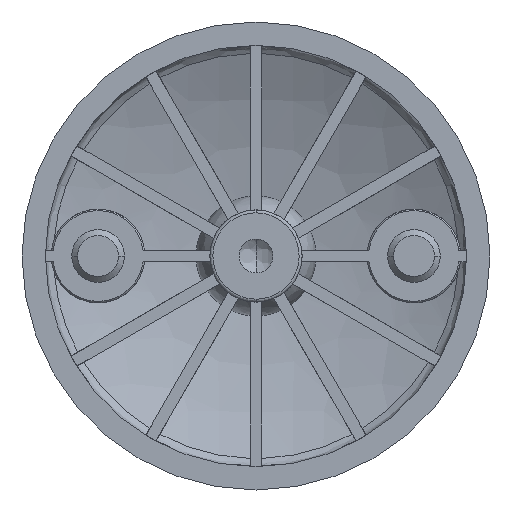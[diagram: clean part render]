
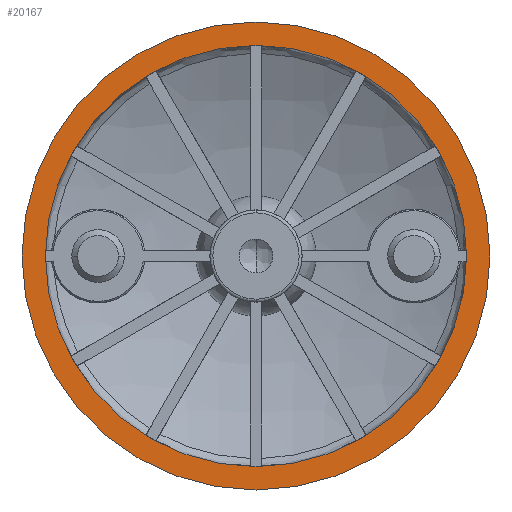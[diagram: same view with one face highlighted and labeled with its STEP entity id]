
A CAD part, front view. The second image highlights one B-rep face of the part: STEP entity #20167.
In plain terms, the highlighted planar face has unit normal (0, -1, 0).
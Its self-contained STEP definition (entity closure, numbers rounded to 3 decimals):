
#119 = CARTESIAN_POINT ( 'NONE',  ( 0., 0., -36. ) ) ;
#1140 = CARTESIAN_POINT ( 'NONE',  ( 0., 0., -36. ) ) ;
#1704 = FACE_BOUND ( 'NONE', #8779, .T. ) ;
#2088 = DIRECTION ( 'NONE',  ( 0., -1., 0. ) ) ;
#2636 = DIRECTION ( 'NONE',  ( 0., 1., 0. ) ) ;
#2767 = DIRECTION ( 'NONE',  ( 0., 0., -1. ) ) ;
#3023 = DIRECTION ( 'NONE',  ( 0., 1., 0. ) ) ;
#3615 = CIRCLE ( 'NONE', #28178, 40. ) ;
#4667 = EDGE_CURVE ( 'NONE', #25021, #13341, #3615, .T. ) ;
#6007 = AXIS2_PLACEMENT_3D ( 'NONE', #23245, #3023, #18718 ) ;
#6972 = FACE_OUTER_BOUND ( 'NONE', #22099, .T. ) ;
#7261 = DIRECTION ( 'NONE',  ( 0., 0., -1. ) ) ;
#7695 = DIRECTION ( 'NONE',  ( 0., 1., 0. ) ) ;
#8054 = CIRCLE ( 'NONE', #21966, 36. ) ;
#8779 = EDGE_LOOP ( 'NONE', ( #14365, #28837 ) ) ;
#10270 = CARTESIAN_POINT ( 'NONE',  ( 0., 0., 0. ) ) ;
#11086 = AXIS2_PLACEMENT_3D ( 'NONE', #25450, #18358, #2767 ) ;
#13341 = VERTEX_POINT ( 'NONE', #24206 ) ;
#14365 = ORIENTED_EDGE ( 'NONE', *, *, #18297, .T. ) ;
#16492 = AXIS2_PLACEMENT_3D ( 'NONE', #119, #2088, #17682 ) ;
#17226 = ORIENTED_EDGE ( 'NONE', *, *, #4667, .F. ) ;
#17682 = DIRECTION ( 'NONE',  ( 0., 0., -1. ) ) ;
#18297 = EDGE_CURVE ( 'NONE', #18924, #20236, #26187, .T. ) ;
#18358 = DIRECTION ( 'NONE',  ( 0., 1., 0. ) ) ;
#18718 = DIRECTION ( 'NONE',  ( 0., 0., -1. ) ) ;
#18924 = VERTEX_POINT ( 'NONE', #1140 ) ;
#20167 = ADVANCED_FACE ( 'NONE', ( #1704, #6972 ), #26647, .T. ) ;
#20236 = VERTEX_POINT ( 'NONE', #24866 ) ;
#21792 = CARTESIAN_POINT ( 'NONE',  ( 0., 0., -40. ) ) ;
#21966 = AXIS2_PLACEMENT_3D ( 'NONE', #10270, #7695, #25971 ) ;
#22099 = EDGE_LOOP ( 'NONE', ( #17226, #25829 ) ) ;
#22572 = CIRCLE ( 'NONE', #6007, 40. ) ;
#22770 = CARTESIAN_POINT ( 'NONE',  ( 0., 0., 0. ) ) ;
#23245 = CARTESIAN_POINT ( 'NONE',  ( 0., 0., 0. ) ) ;
#24206 = CARTESIAN_POINT ( 'NONE',  ( 0., 0., 40. ) ) ;
#24866 = CARTESIAN_POINT ( 'NONE',  ( 0., 0., 36. ) ) ;
#25021 = VERTEX_POINT ( 'NONE', #21792 ) ;
#25423 = EDGE_CURVE ( 'NONE', #13341, #25021, #22572, .T. ) ;
#25450 = CARTESIAN_POINT ( 'NONE',  ( 0., 0., 0. ) ) ;
#25829 = ORIENTED_EDGE ( 'NONE', *, *, #25423, .F. ) ;
#25971 = DIRECTION ( 'NONE',  ( 0., 0., -1. ) ) ;
#26009 = EDGE_CURVE ( 'NONE', #20236, #18924, #8054, .T. ) ;
#26187 = CIRCLE ( 'NONE', #11086, 36. ) ;
#26647 = PLANE ( 'NONE',  #16492 ) ;
#28178 = AXIS2_PLACEMENT_3D ( 'NONE', #22770, #2636, #7261 ) ;
#28837 = ORIENTED_EDGE ( 'NONE', *, *, #26009, .T. ) ;
